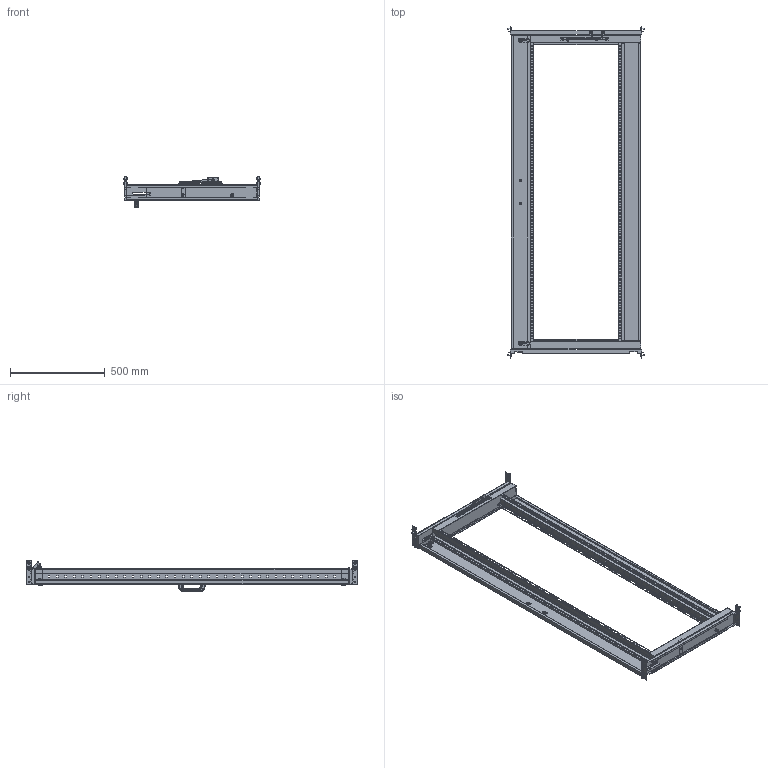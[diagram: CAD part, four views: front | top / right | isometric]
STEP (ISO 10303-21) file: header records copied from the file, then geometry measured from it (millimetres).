
FILE_DESCRIPTION(('Open CASCADE Model'),'2;1');
FILE_NAME('Open CASCADE Shape Model','2025-03-20T14:54:05',('Author'),( 'Open CASCADE'),'Open CASCADE STEP processor 7.8','Open CASCADE 7.8' ,'Unknown');
FILE_SCHEMA(('AUTOMOTIVE_DESIGN { 1 0 10303 214 1 1 1 1 }'));
Length unit declared in the file: millimetre
Products named in the file (37): Compound1; Compound2; Solid1; Solid2; Solid3; Compound3; Solid4; Solid5; Solid6; Solid7; Solid8; Solid9; Solid10; Solid11; Solid12; Solid13; Solid14; Solid15; Solid16; Solid17; Solid18; Compound4; Solid19; Solid20; Solid21; Solid22; Solid23; Solid24; Solid25; Solid26; Solid27; Solid28; Compound5; Solid29; Solid30; Solid31; Solid32
Assembly tree (59 placements, depth 3):
  Compound1
    Compound2
      Solid1
      Solid2  x2
      Solid3
    Compound3
      Solid4
      Solid2  x2
      Solid3
    Solid5  x2
    Solid6  x2
    Solid7
    Solid8
    Solid9
    Solid10
    Solid11
    Solid12
    Solid13  x2
    Solid14  x4
    Solid15  x8
    Solid16
    Solid17  x2
    Solid18  x2
    Compound4
      Solid19
      Solid20
      Solid21
      Solid22  x2
      Solid23
      Solid24  x2
      Solid25
      Solid26
      Solid27  x2
      Solid28  x2
    Compound5
      Solid29
      Solid30
    Solid31
    Solid32
Bounding box: 726 x 1755 x 165.5 mm (x, y, z)
Volume: 2442482.4 mm3; surface area: 3110953.7 mm2
Topology: 57 solids, 75 shells, 5841 faces, 16326 edges, 10569 vertices
Faces by surface type: plane 3766, cylinder 712, bspline 670, cone 439, torus 176, sphere 78
Entity records: 175781 total; most frequent: CARTESIAN_POINT 57397, ORIENTED_EDGE 25902, DIRECTION 21175, EDGE_CURVE 13121, LINE 9679, VECTOR 9679, VERTEX_POINT 8537, FACE_BOUND 5836
